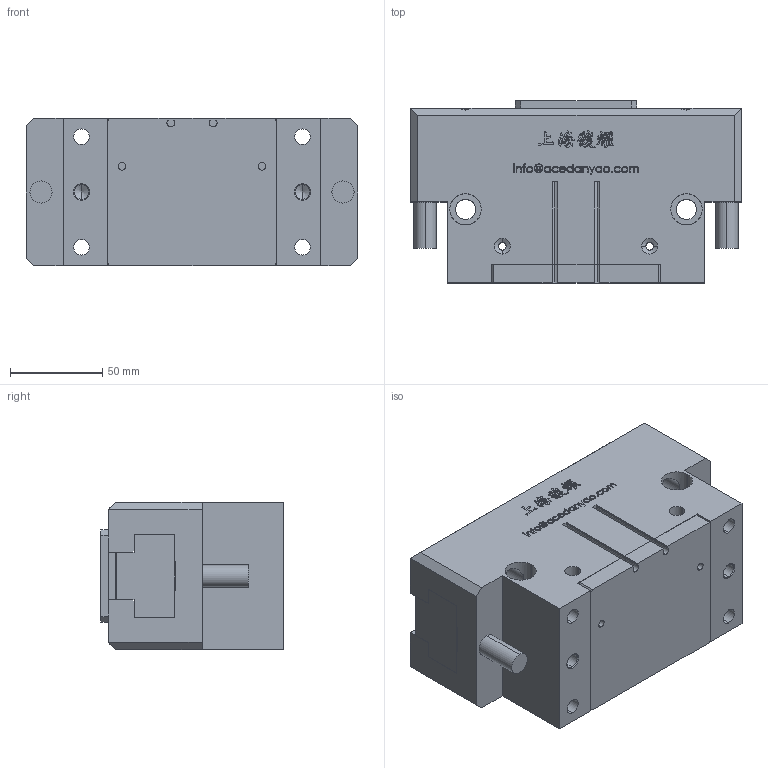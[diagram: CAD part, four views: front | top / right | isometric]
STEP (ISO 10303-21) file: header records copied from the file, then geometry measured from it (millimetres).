
FILE_DESCRIPTION (( 'STEP AP203' ), '1' );
FILE_NAME ('OPP2-180-C2-原始檔-組合-W106.04.19.STEP', '2017-04-19T05:10:42', ( 'DanyaoCAD' ), ( '' ), 'SwSTEP 2.0', 'SolidWorks 2016', '' );
FILE_SCHEMA (( 'CONFIG_CONTROL_DESIGN' ));
Length unit declared in the file: millimetre
Products named in the file (5): OPP2-180-C2-原始檔-組合-W106.04.19; Griffa; Coperchio; Corpo; Fondello
Assembly tree (5 placements, depth 2):
  OPP2-180-C2-原始檔-組合-W106.04.19
    Griffa  x2
    Coperchio
    Corpo
    Fondello
Bounding box: 180 x 99 x 80 mm (x, y, z)
Volume: 1099367.6 mm3; surface area: 175730 mm2
Topology: 5 solids, 5 shells, 1063 faces, 2958 edges, 1944 vertices
Faces by surface type: bspline 640, plane 271, cylinder 104, cone 48
Entity records: 50259 total; most frequent: CARTESIAN_POINT 27636, ORIENTED_EDGE 5704, EDGE_CURVE 2852, DIRECTION 2540, VERTEX_POINT 1890, VECTOR 1336, LINE 1336, B_SPLINE_CURVE_WITH_KNOTS 1304
